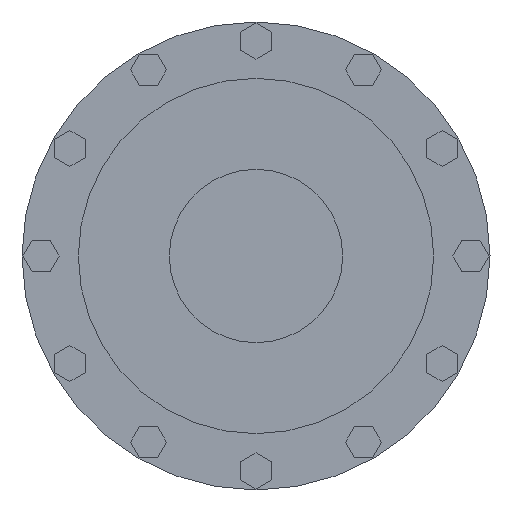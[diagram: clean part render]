
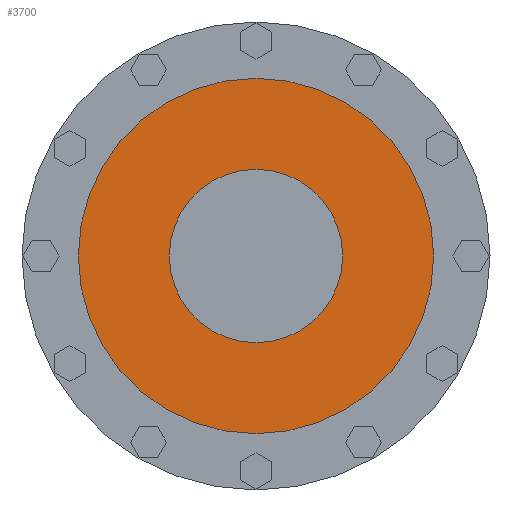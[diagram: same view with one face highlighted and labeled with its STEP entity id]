
A CAD part, left-side view. The second image highlights one B-rep face of the part: STEP entity #3700.
In plain terms, the highlighted planar face has unit normal (-1, 0, 0).
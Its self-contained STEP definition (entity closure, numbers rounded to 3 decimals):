
#6=CARTESIAN_POINT('',(-399.,0.,0.));
#7=DIRECTION('',(1.,0.,0.));
#8=DIRECTION('',(0.,1.,0.));
#9=AXIS2_PLACEMENT_3D('',#6,#7,#8);
#773=CARTESIAN_POINT('',(-399.,0.,0.));
#774=DIRECTION('',(-1.,0.,0.));
#775=DIRECTION('',(0.,1.,0.));
#776=AXIS2_PLACEMENT_3D('',#773,#774,#775);
#778=CARTESIAN_POINT('',(-399.,0.,0.));
#779=DIRECTION('',(1.,0.,0.));
#780=DIRECTION('',(0.,1.,0.));
#781=AXIS2_PLACEMENT_3D('',#778,#779,#780);
#792=CARTESIAN_POINT('',(-399.,0.,0.));
#793=DIRECTION('',(-1.,0.,0.));
#794=DIRECTION('',(0.,1.,0.));
#795=AXIS2_PLACEMENT_3D('',#792,#793,#794);
#2294=CARTESIAN_POINT('',(-399.,102.5,0.));
#2296=VERTEX_POINT('',#2294);
#2302=CARTESIAN_POINT('',(-399.,-102.5,0.));
#2304=VERTEX_POINT('',#2302);
#2325=CARTESIAN_POINT('',(-399.,50.,0.));
#2326=VERTEX_POINT('',#2325);
#2327=CARTESIAN_POINT('',(-399.,-50.,0.));
#2328=VERTEX_POINT('',#2327);
#3686=CARTESIAN_POINT('',(-399.,0.,0.));
#3687=DIRECTION('',(1.,0.,0.));
#3688=DIRECTION('',(0.,-1.,0.));
#3689=AXIS2_PLACEMENT_3D('',#3686,#3687,#3688);
#3690=PLANE('',#3689);
#3691=ORIENTED_EDGE('',*,*,#3679,.F.);
#3692=ORIENTED_EDGE('',*,*,#3668,.T.);
#3693=EDGE_LOOP('',(#3691,#3692));
#3694=FACE_OUTER_BOUND('',#3693,.F.);
#3695=ORIENTED_EDGE('',*,*,#3034,.F.);
#3697=ORIENTED_EDGE('',*,*,#3696,.T.);
#3698=EDGE_LOOP('',(#3695,#3697));
#3699=FACE_BOUND('',#3698,.F.);
#3700=ADVANCED_FACE('',(#3694,#3699),#3690,.F.);
#10=CIRCLE('',#9,50.);
#777=CIRCLE('',#776,102.5);
#782=CIRCLE('',#781,102.5);
#796=CIRCLE('',#795,50.);
#3034=EDGE_CURVE('',#2326,#2328,#10,.T.);
#3668=EDGE_CURVE('',#2296,#2304,#782,.T.);
#3679=EDGE_CURVE('',#2296,#2304,#777,.T.);
#3696=EDGE_CURVE('',#2326,#2328,#796,.T.);
